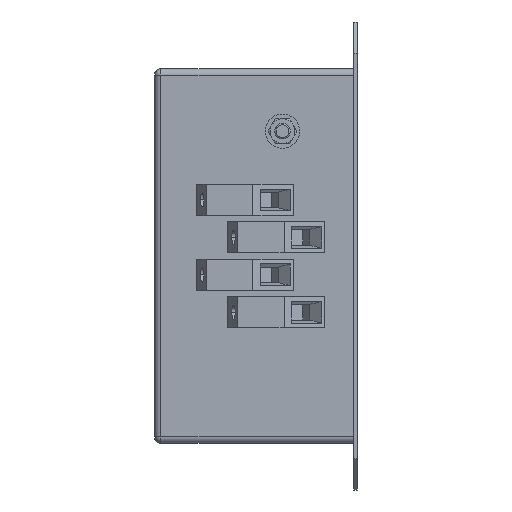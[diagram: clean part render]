
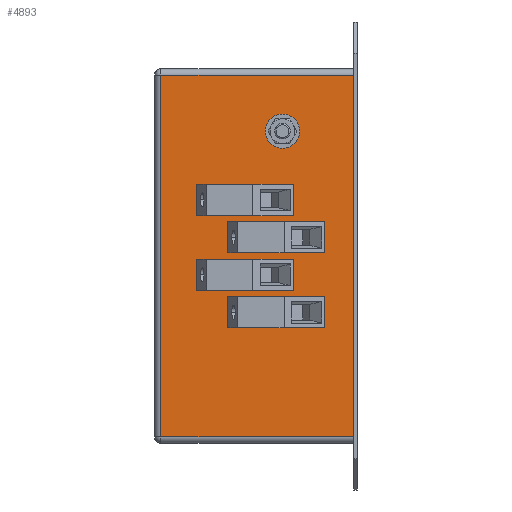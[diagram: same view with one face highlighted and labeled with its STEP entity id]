
A CAD part, left-side view. The second image highlights one B-rep face of the part: STEP entity #4893.
In plain terms, the highlighted planar face has unit normal (-1, 0, 0).
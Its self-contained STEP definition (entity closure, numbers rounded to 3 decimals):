
#117 = EDGE_CURVE ( 'NONE', #513, #6979, #6766, .T. ) ;
#122 = CARTESIAN_POINT ( 'NONE',  ( 0., 24., -38. ) ) ;
#137 = CIRCLE ( 'NONE', #1950, 1.5 ) ;
#160 = AXIS2_PLACEMENT_3D ( 'NONE', #3223, #8660, #2599 ) ;
#180 = EDGE_CURVE ( 'NONE', #2192, #6361, #3910, .T. ) ;
#237 = VERTEX_POINT ( 'NONE', #5524 ) ;
#429 = EDGE_CURVE ( 'NONE', #3683, #3515, #2829, .T. ) ;
#513 = VERTEX_POINT ( 'NONE', #8475 ) ;
#873 = DIRECTION ( 'NONE',  ( 0., 0., -1. ) ) ;
#890 = CARTESIAN_POINT ( 'NONE',  ( 0., 24., -32. ) ) ;
#942 = ORIENTED_EDGE ( 'NONE', *, *, #4413, .T. ) ;
#1219 = DIRECTION ( 'NONE',  ( 0., 1., 0. ) ) ;
#1328 = VECTOR ( 'NONE', #5341, 1000. ) ;
#1503 = CARTESIAN_POINT ( 'NONE',  ( 0., 44., -57. ) ) ;
#1549 = ORIENTED_EDGE ( 'NONE', *, *, #117, .T. ) ;
#1608 = CIRCLE ( 'NONE', #4242, 1.5 ) ;
#1644 = CARTESIAN_POINT ( 'NONE',  ( 0., 63., -135. ) ) ;
#1677 = VECTOR ( 'NONE', #6746, 1000. ) ;
#1912 = FACE_BOUND ( 'NONE', #3606, .T. ) ;
#1944 = CARTESIAN_POINT ( 'NONE',  ( 0., 24., -35. ) ) ;
#1950 = AXIS2_PLACEMENT_3D ( 'NONE', #7341, #8130, #2546 ) ;
#2075 = AXIS2_PLACEMENT_3D ( 'NONE', #8295, #4204, #8271 ) ;
#2111 = ORIENTED_EDGE ( 'NONE', *, *, #180, .T. ) ;
#2192 = VERTEX_POINT ( 'NONE', #7417 ) ;
#2211 = DIRECTION ( 'NONE',  ( 1., 0., 0. ) ) ;
#2382 = CIRCLE ( 'NONE', #2075, 1.5 ) ;
#2435 = EDGE_LOOP ( 'NONE', ( #3093, #5225 ) ) ;
#2546 = DIRECTION ( 'NONE',  ( 0., 0., -1. ) ) ;
#2599 = DIRECTION ( 'NONE',  ( 0., 0., -1. ) ) ;
#2829 = CIRCLE ( 'NONE', #8162, 3. ) ;
#2910 = AXIS2_PLACEMENT_3D ( 'NONE', #5200, #5888, #7229 ) ;
#2940 = VERTEX_POINT ( 'NONE', #3461 ) ;
#2959 = CARTESIAN_POINT ( 'NONE',  ( 0., 1.2, -17. ) ) ;
#2982 = ORIENTED_EDGE ( 'NONE', *, *, #429, .T. ) ;
#3062 = CARTESIAN_POINT ( 'NONE',  ( 0., 34., -69. ) ) ;
#3081 = VERTEX_POINT ( 'NONE', #4332 ) ;
#3093 = ORIENTED_EDGE ( 'NONE', *, *, #3476, .T. ) ;
#3161 = CARTESIAN_POINT ( 'NONE',  ( 0., 44., -79.5 ) ) ;
#3198 = ORIENTED_EDGE ( 'NONE', *, *, #7773, .T. ) ;
#3223 = CARTESIAN_POINT ( 'NONE',  ( 0., 34., -69. ) ) ;
#3251 = CARTESIAN_POINT ( 'NONE',  ( 0., 44., -82.5 ) ) ;
#3297 = EDGE_CURVE ( 'NONE', #3081, #7679, #5894, .T. ) ;
#3321 = FACE_BOUND ( 'NONE', #8357, .T. ) ;
#3359 = AXIS2_PLACEMENT_3D ( 'NONE', #1944, #8111, #7377 ) ;
#3431 = FACE_BOUND ( 'NONE', #3810, .T. ) ;
#3461 = CARTESIAN_POINT ( 'NONE',  ( 0., 44., -58.5 ) ) ;
#3476 = EDGE_CURVE ( 'NONE', #4299, #7216, #2382, .T. ) ;
#3497 = DIRECTION ( 'NONE',  ( 1., 0., 0. ) ) ;
#3502 = DIRECTION ( 'NONE',  ( 1., 0., 0. ) ) ;
#3515 = VERTEX_POINT ( 'NONE', #122 ) ;
#3560 = DIRECTION ( 'NONE',  ( 0., 0., -1. ) ) ;
#3606 = EDGE_LOOP ( 'NONE', ( #3198, #1549 ) ) ;
#3611 = ORIENTED_EDGE ( 'NONE', *, *, #3297, .T. ) ;
#3683 = VERTEX_POINT ( 'NONE', #890 ) ;
#3810 = EDGE_LOOP ( 'NONE', ( #942, #4800 ) ) ;
#3823 = DIRECTION ( 'NONE',  ( 1., 0., 0. ) ) ;
#3842 = ORIENTED_EDGE ( 'NONE', *, *, #6449, .T. ) ;
#3910 = LINE ( 'NONE', #5404, #1328 ) ;
#4056 = AXIS2_PLACEMENT_3D ( 'NONE', #4661, #8119, #7449 ) ;
#4060 = CIRCLE ( 'NONE', #160, 1.5 ) ;
#4095 = AXIS2_PLACEMENT_3D ( 'NONE', #3062, #3823, #8609 ) ;
#4165 = CARTESIAN_POINT ( 'NONE',  ( 0., 44., -55.5 ) ) ;
#4183 = ORIENTED_EDGE ( 'NONE', *, *, #5925, .T. ) ;
#4204 = DIRECTION ( 'NONE',  ( 1., 0., 0. ) ) ;
#4242 = AXIS2_PLACEMENT_3D ( 'NONE', #1503, #2211, #873 ) ;
#4299 = VERTEX_POINT ( 'NONE', #3251 ) ;
#4332 = CARTESIAN_POINT ( 'NONE',  ( 0., 34., -67.5 ) ) ;
#4353 = ORIENTED_EDGE ( 'NONE', *, *, #6904, .T. ) ;
#4413 = EDGE_CURVE ( 'NONE', #2940, #5942, #1608, .T. ) ;
#4505 = FACE_BOUND ( 'NONE', #2435, .T. ) ;
#4563 = EDGE_CURVE ( 'NONE', #5942, #2940, #4724, .T. ) ;
#4654 = VERTEX_POINT ( 'NONE', #6201 ) ;
#4661 = CARTESIAN_POINT ( 'NONE',  ( 0., 34., -93. ) ) ;
#4716 = CARTESIAN_POINT ( 'NONE',  ( 0., 65., -133. ) ) ;
#4724 = CIRCLE ( 'NONE', #4969, 1.5 ) ;
#4800 = ORIENTED_EDGE ( 'NONE', *, *, #4563, .T. ) ;
#4856 = AXIS2_PLACEMENT_3D ( 'NONE', #6873, #3497, #8252 ) ;
#4893 = ADVANCED_FACE ( 'NONE', ( #6306, #3431, #3321, #4505, #1912, #5977 ), #6195, .F. ) ;
#4969 = AXIS2_PLACEMENT_3D ( 'NONE', #6938, #3502, #5560 ) ;
#5033 = DIRECTION ( 'NONE',  ( 0., 0., -1. ) ) ;
#5076 = EDGE_CURVE ( 'NONE', #7216, #4299, #137, .T. ) ;
#5122 = EDGE_LOOP ( 'NONE', ( #5601, #2982 ) ) ;
#5188 = EDGE_LOOP ( 'NONE', ( #4353, #3842, #2111, #7827 ) ) ;
#5200 = CARTESIAN_POINT ( 'NONE',  ( 0., 34., -93. ) ) ;
#5225 = ORIENTED_EDGE ( 'NONE', *, *, #5076, .T. ) ;
#5226 = CARTESIAN_POINT ( 'NONE',  ( 0., 34., -70.5 ) ) ;
#5341 = DIRECTION ( 'NONE',  ( 0., 0., 1. ) ) ;
#5404 = CARTESIAN_POINT ( 'NONE',  ( 0., 1.2, -135. ) ) ;
#5524 = CARTESIAN_POINT ( 'NONE',  ( 0., 63., -133. ) ) ;
#5560 = DIRECTION ( 'NONE',  ( 0., 0., -1. ) ) ;
#5601 = ORIENTED_EDGE ( 'NONE', *, *, #7928, .T. ) ;
#5733 = LINE ( 'NONE', #1644, #8075 ) ;
#5888 = DIRECTION ( 'NONE',  ( 1., 0., 0. ) ) ;
#5894 = CIRCLE ( 'NONE', #4095, 1.5 ) ;
#5925 = EDGE_CURVE ( 'NONE', #7679, #3081, #4060, .T. ) ;
#5942 = VERTEX_POINT ( 'NONE', #4165 ) ;
#5977 = FACE_OUTER_BOUND ( 'NONE', #5188, .T. ) ;
#6195 = PLANE ( 'NONE',  #4856 ) ;
#6201 = CARTESIAN_POINT ( 'NONE',  ( 0., 63., -17. ) ) ;
#6262 = CARTESIAN_POINT ( 'NONE',  ( 0., 24., -35. ) ) ;
#6306 = FACE_BOUND ( 'NONE', #5122, .T. ) ;
#6361 = VERTEX_POINT ( 'NONE', #2959 ) ;
#6449 = EDGE_CURVE ( 'NONE', #237, #2192, #8406, .T. ) ;
#6746 = DIRECTION ( 'NONE',  ( 0., -1., 0. ) ) ;
#6766 = CIRCLE ( 'NONE', #4056, 1.5 ) ;
#6873 = CARTESIAN_POINT ( 'NONE',  ( 0., 65., -135. ) ) ;
#6904 = EDGE_CURVE ( 'NONE', #4654, #237, #5733, .T. ) ;
#6935 = DIRECTION ( 'NONE',  ( 1., 0., 0. ) ) ;
#6938 = CARTESIAN_POINT ( 'NONE',  ( 0., 44., -57. ) ) ;
#6979 = VERTEX_POINT ( 'NONE', #7840 ) ;
#7194 = CIRCLE ( 'NONE', #2910, 1.5 ) ;
#7216 = VERTEX_POINT ( 'NONE', #3161 ) ;
#7229 = DIRECTION ( 'NONE',  ( 0., 0., -1. ) ) ;
#7341 = CARTESIAN_POINT ( 'NONE',  ( 0., 44., -81. ) ) ;
#7377 = DIRECTION ( 'NONE',  ( 0., 0., -1. ) ) ;
#7417 = CARTESIAN_POINT ( 'NONE',  ( 0., 1.2, -133. ) ) ;
#7449 = DIRECTION ( 'NONE',  ( 0., 0., -1. ) ) ;
#7679 = VERTEX_POINT ( 'NONE', #5226 ) ;
#7773 = EDGE_CURVE ( 'NONE', #6979, #513, #7194, .T. ) ;
#7827 = ORIENTED_EDGE ( 'NONE', *, *, #8702, .T. ) ;
#7840 = CARTESIAN_POINT ( 'NONE',  ( 0., 34., -94.5 ) ) ;
#7928 = EDGE_CURVE ( 'NONE', #3515, #3683, #8259, .T. ) ;
#8075 = VECTOR ( 'NONE', #5033, 1000. ) ;
#8111 = DIRECTION ( 'NONE',  ( 1., 0., 0. ) ) ;
#8119 = DIRECTION ( 'NONE',  ( 1., 0., 0. ) ) ;
#8130 = DIRECTION ( 'NONE',  ( 1., 0., 0. ) ) ;
#8162 = AXIS2_PLACEMENT_3D ( 'NONE', #6262, #6935, #3560 ) ;
#8252 = DIRECTION ( 'NONE',  ( 0., 0., -1. ) ) ;
#8259 = CIRCLE ( 'NONE', #3359, 3. ) ;
#8271 = DIRECTION ( 'NONE',  ( 0., 0., -1. ) ) ;
#8295 = CARTESIAN_POINT ( 'NONE',  ( 0., 44., -81. ) ) ;
#8357 = EDGE_LOOP ( 'NONE', ( #4183, #3611 ) ) ;
#8406 = LINE ( 'NONE', #4716, #1677 ) ;
#8445 = LINE ( 'NONE', #8745, #8650 ) ;
#8475 = CARTESIAN_POINT ( 'NONE',  ( 0., 34., -91.5 ) ) ;
#8609 = DIRECTION ( 'NONE',  ( 0., 0., -1. ) ) ;
#8650 = VECTOR ( 'NONE', #1219, 1000. ) ;
#8660 = DIRECTION ( 'NONE',  ( 1., 0., 0. ) ) ;
#8702 = EDGE_CURVE ( 'NONE', #6361, #4654, #8445, .T. ) ;
#8745 = CARTESIAN_POINT ( 'NONE',  ( 0., 65., -17. ) ) ;
